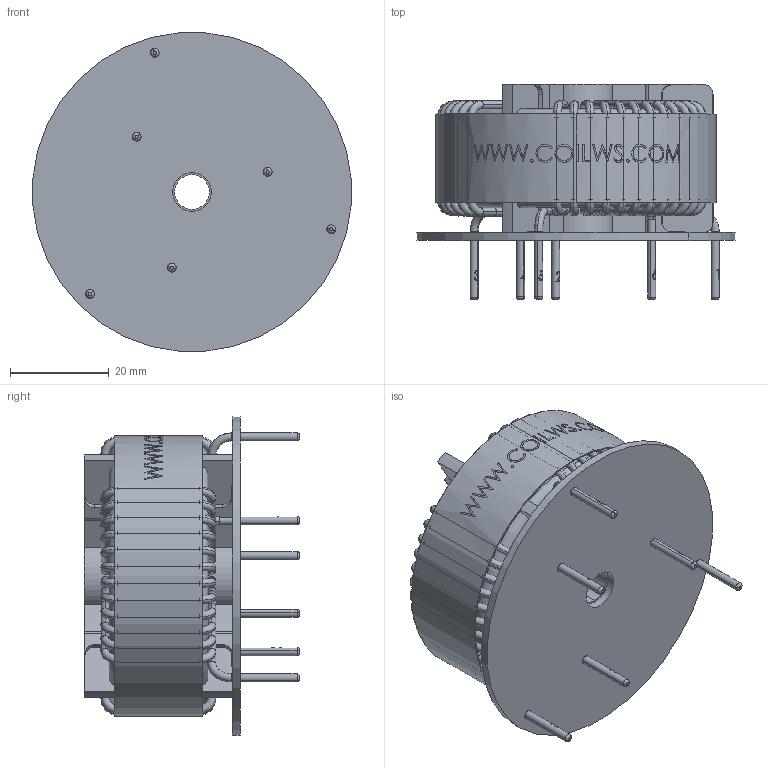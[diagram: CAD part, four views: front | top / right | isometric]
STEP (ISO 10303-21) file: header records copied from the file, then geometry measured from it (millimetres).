
FILE_DESCRIPTION (( 'STEP AP214' ), '1' );
FILE_NAME ('TPC-802U-B20A REV B.STEP', '2021-08-18T06:28:29', ( '' ), ( '' ), 'SwSTEP 2.0', 'SolidWorks 2015', '' );
FILE_SCHEMA (( 'AUTOMOTIVE_DESIGN' ));
Length unit declared in the file: millimetre
Products named in the file (6): SPACER; FRAME; TPC-802U-B20A REV B; CORE; WRAPPER; COIL
Assembly tree (5 placements, depth 2):
  TPC-802U-B20A REV B
    CORE
    SPACER
    FRAME
    COIL
    WRAPPER
Bounding box: 64.52 x 43.6 x 64.52 mm (x, y, z)
Volume: 44183.4 mm3; surface area: 40496 mm2
Topology: 52 solids, 52 shells, 1233 faces, 3285 edges, 2182 vertices
Faces by surface type: cylinder 492, torus 348, plane 243, bspline 150
Entity records: 64256 total; most frequent: CARTESIAN_POINT 22165, DIRECTION 6902, ORIENTED_EDGE 6570, EDGE_CURVE 3285, AXIS2_PLACEMENT_3D 3079, VERTEX_POINT 2182, CIRCLE 1988, EDGE_LOOP 1279
